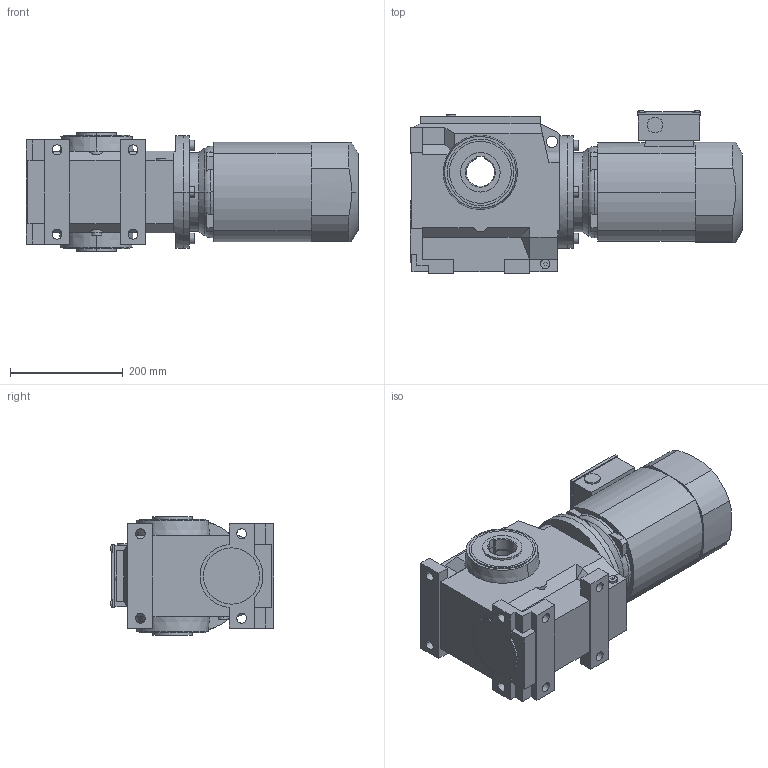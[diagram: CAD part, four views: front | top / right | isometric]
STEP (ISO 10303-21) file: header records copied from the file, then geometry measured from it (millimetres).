
FILE_DESCRIPTION(('STEP AP214'),'1');
FILE_NAME('STEP-File.stp','2018-01-01T00:00:00',(' '),('KEB'),' ','KEB-DRIVE',' ');
FILE_SCHEMA(('AUTOMOTIVE_DESIGN { 1 0 10303 214 1 1 1 1 }'));
Length unit declared in the file: millimetre
Products named in the file (10): s4a; we_hw_50; weh_slno; cn4; dm100_kkn; kk08; PLUG_M25; ndm100; S42A DM90SD4§CAD13
Assembly tree (9 placements, depth 2):
  S42A DM90SD4§CAD13
    s4a
    we_hw_50
    weh_slno
    weh_slno
    cn4
    dm100_kkn
    kk08
    PLUG_M25
    ndm100
Bounding box: 589.5 x 290.5 x 210 mm (x, y, z)
Volume: 19134100.4 mm3; surface area: 944364.5 mm2
Topology: 9 solids, 9 shells, 489 faces, 1446 edges, 1134 vertices
Faces by surface type: plane 344, cylinder 101, cone 40, torus 4
Entity records: 18195 total; most frequent: CARTESIAN_POINT 5225, ORIENTED_EDGE 2892, DIRECTION 2077, EDGE_CURVE 1446, VERTEX_POINT 1134, VECTOR 1101, LINE 1101, EDGE_LOOP 674
